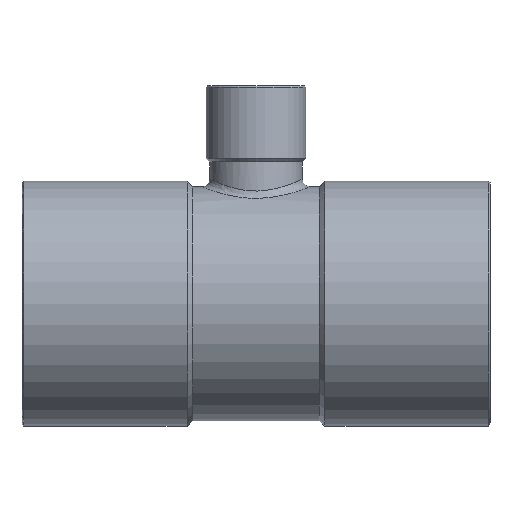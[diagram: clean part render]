
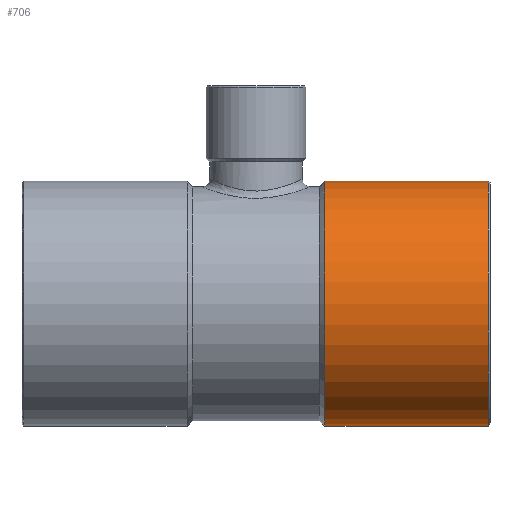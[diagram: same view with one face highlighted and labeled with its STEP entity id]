
A CAD part, top view. The second image highlights one B-rep face of the part: STEP entity #706.
In plain terms, the highlighted cylindrical face has radius 15.175 mm (diameter 30.35 mm), a partial arc.
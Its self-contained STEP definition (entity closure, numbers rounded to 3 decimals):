
#135=CARTESIAN_POINT('',(35.017,15.175,0.0));
#136=VERTEX_POINT('',#135);
#152=CARTESIAN_POINT('',(35.017,-15.175,0.));
#153=VERTEX_POINT('',#152);
#160=CARTESIAN_POINT('',(35.017,0.0,0.0));
#161=DIRECTION('',(1.0,0.0,0.0));
#162=DIRECTION('',(0.0,1.0,0.0));
#163=AXIS2_PLACEMENT_3D('',#160,#161,#162);
#164=CIRCLE('',#163,15.175);
#165=EDGE_CURVE('',#136,#153,#164,.T.);
#675=CARTESIAN_POINT('',(45.244,0.0,0.0));
#676=DIRECTION('',(1.0,0.0,0.0));
#677=DIRECTION('',(0.0,1.0,0.0));
#678=AXIS2_PLACEMENT_3D('',#675,#676,#677);
#679=CYLINDRICAL_SURFACE('',#678,15.175);
#680=CARTESIAN_POINT('',(55.272,15.175,0.));
#681=VERTEX_POINT('',#680);
#682=CARTESIAN_POINT('',(35.017,15.175,0.0));
#683=DIRECTION('',(1.0,0.0,0.0));
#684=VECTOR('',#683,20.256);
#685=LINE('',#682,#684);
#686=EDGE_CURVE('',#136,#681,#685,.T.);
#687=ORIENTED_EDGE('',*,*,#686,.F.);
#688=ORIENTED_EDGE('',*,*,#165,.T.);
#689=CARTESIAN_POINT('',(55.272,-15.175,0.));
#690=VERTEX_POINT('',#689);
#691=CARTESIAN_POINT('',(55.272,-15.175,0.));
#692=DIRECTION('',(-1.0,0.0,0.0));
#693=VECTOR('',#692,20.256);
#694=LINE('',#691,#693);
#695=EDGE_CURVE('',#690,#153,#694,.T.);
#696=ORIENTED_EDGE('',*,*,#695,.F.);
#697=CARTESIAN_POINT('',(55.272,0.0,0.0));
#698=DIRECTION('',(1.0,0.0,0.0));
#699=DIRECTION('',(0.0,-1.0,0.0));
#700=AXIS2_PLACEMENT_3D('',#697,#698,#699);
#701=CIRCLE('',#700,15.175);
#702=EDGE_CURVE('',#681,#690,#701,.T.);
#703=ORIENTED_EDGE('',*,*,#702,.F.);
#704=EDGE_LOOP('',(#687,#688,#696,#703));
#705=FACE_OUTER_BOUND('',#704,.T.);
#706=ADVANCED_FACE('',(#705),#679,.T.);
